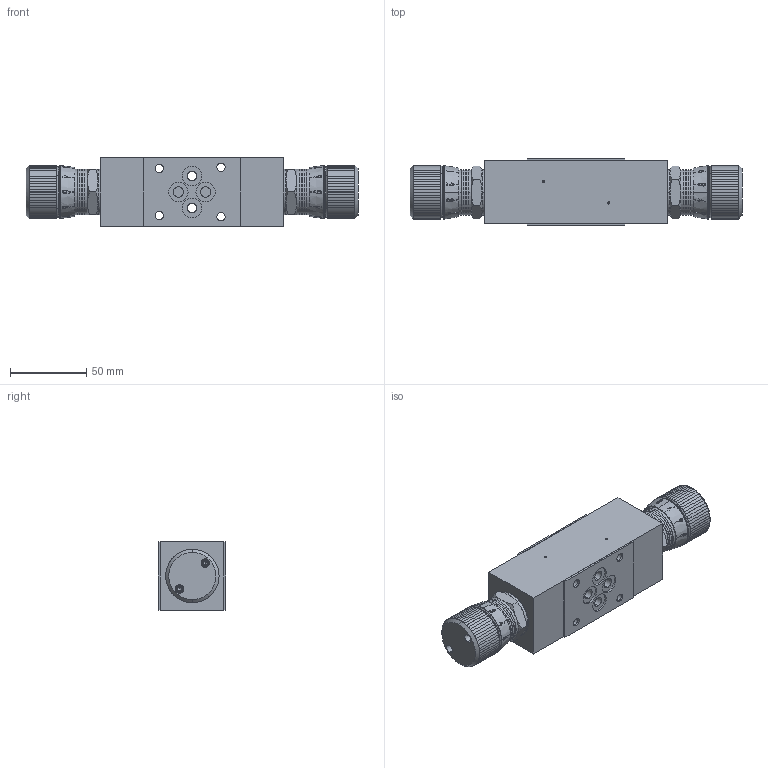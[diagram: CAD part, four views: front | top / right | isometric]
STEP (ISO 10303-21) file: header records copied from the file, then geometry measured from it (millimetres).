
FILE_DESCRIPTION (( 'STEP AP214' ), '1' );
FILE_NAME ('AURDV6.STEP', '2017-04-12T14:13:14', ( '' ), ( '' ), 'SwSTEP 2.0', 'SolidWorks 2016', '' );
FILE_SCHEMA (( 'AUTOMOTIVE_DESIGN' ));
Length unit declared in the file: millimetre
Products named in the file (1): AURDV6
Bounding box: 218 x 44 x 45 mm (x, y, z)
Volume: 305484.9 mm3; surface area: 53102.6 mm2
Topology: 3 solids, 3 shells, 1849 faces, 5143 edges, 3360 vertices
Faces by surface type: plane 1150, cylinder 296, bspline 245, cone 150, torus 8
Entity records: 108226 total; most frequent: CARTESIAN_POINT 44450, ORIENTED_EDGE 10254, DIRECTION 7393, EDGE_CURVE 5127, VERTEX_POINT 3360, AXIS2_PLACEMENT_3D 2727, B_SPLINE_CURVE_WITH_KNOTS 2022, EDGE_LOOP 1973
